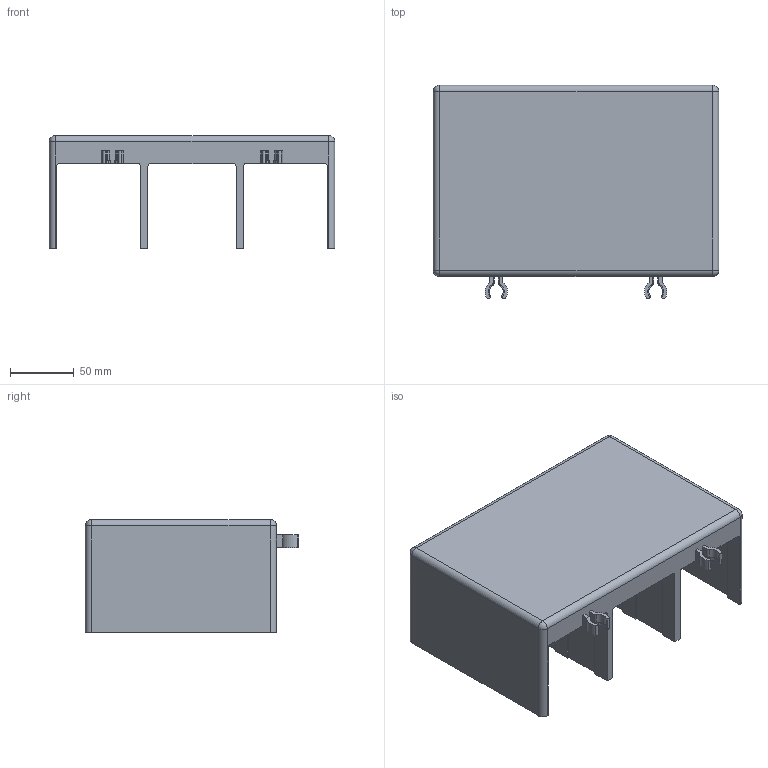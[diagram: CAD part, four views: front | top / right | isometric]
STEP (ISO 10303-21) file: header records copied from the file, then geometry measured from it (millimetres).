
FILE_DESCRIPTION (( 'STEP AP214' ), '1' );
FILE_NAME ('Êðûøêà êëåììíàÿ ÂÀ50-41.STEP', '2023-02-01T11:57:12', ( '' ), ( '' ), 'SwSTEP 2.0', 'SolidWorks 2018', '' );
FILE_SCHEMA (( 'AUTOMOTIVE_DESIGN' ));
Length unit declared in the file: millimetre
Products named in the file (1): Êðûøêà êëåììíàÿ ÂÀ50-41
Bounding box: 224 x 167.49 x 88.5 mm (x, y, z)
Volume: 331184.7 mm3; surface area: 192831.9 mm2
Topology: 1 solids, 1 shells, 174 faces, 508 edges, 332 vertices
Faces by surface type: plane 110, cylinder 60, sphere 4
Entity records: 7680 total; most frequent: CARTESIAN_POINT 1035, ORIENTED_EDGE 1008, DIRECTION 986, EDGE_CURVE 504, LINE 356, VECTOR 356, VERTEX_POINT 332, AXIS2_PLACEMENT_3D 315
